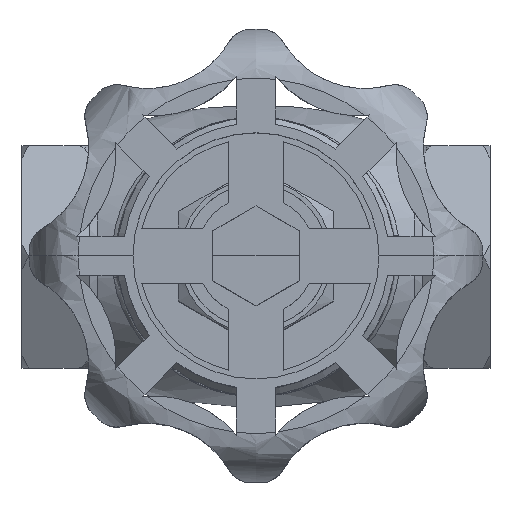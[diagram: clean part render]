
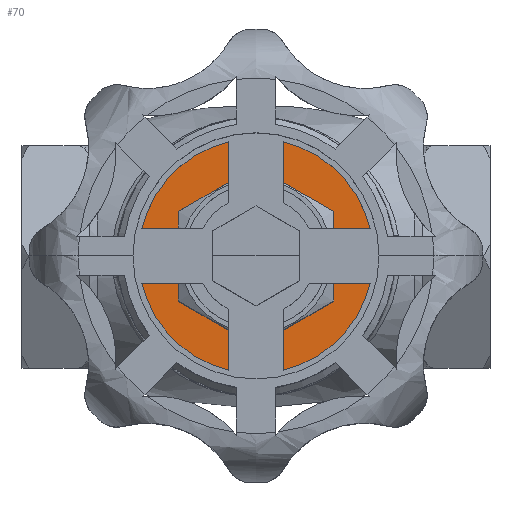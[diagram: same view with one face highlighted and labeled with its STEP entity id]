
A CAD part, top view. The second image highlights one B-rep face of the part: STEP entity #70.
In plain terms, the highlighted planar face has unit normal (0, 0, 1).
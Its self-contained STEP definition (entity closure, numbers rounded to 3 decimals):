
#70=ADVANCED_FACE('',(#584,#585),#583,.T.);
#583=PLANE('',#2847);
#584=FACE_OUTER_BOUND('',#2848,.T.);
#585=FACE_BOUND('',#2849,.T.);
#2844=CARTESIAN_POINT('',(-22.732,-36.344,33.007));
#2845=DIRECTION('',(0.,0.,1.));
#2846=DIRECTION('',(1.,0.,0.));
#2847=AXIS2_PLACEMENT_3D('',#2844,#2845,#2846);
#2848=EDGE_LOOP('',(#5657,#5658));
#2849=EDGE_LOOP('',(#5659,#5660,#5661,#5662,#5663,#5664,#5665,#5666,#5667,#5668,#5669,#5670));
#5657=ORIENTED_EDGE('',*,*,#7016,.F.);
#5658=ORIENTED_EDGE('',*,*,#7017,.F.);
#5659=ORIENTED_EDGE('',*,*,#7002,.T.);
#5660=ORIENTED_EDGE('',*,*,#7018,.T.);
#5661=ORIENTED_EDGE('',*,*,#7008,.T.);
#5662=ORIENTED_EDGE('',*,*,#7019,.T.);
#5663=ORIENTED_EDGE('',*,*,#7020,.T.);
#5664=ORIENTED_EDGE('',*,*,#7021,.T.);
#5665=ORIENTED_EDGE('',*,*,#7022,.T.);
#5666=ORIENTED_EDGE('',*,*,#7023,.T.);
#5667=ORIENTED_EDGE('',*,*,#7024,.T.);
#5668=ORIENTED_EDGE('',*,*,#7025,.T.);
#5669=ORIENTED_EDGE('',*,*,#7012,.T.);
#5670=ORIENTED_EDGE('',*,*,#7026,.T.);
#7002=EDGE_CURVE('',#8446,#8438,#8447,.T.);
#7008=EDGE_CURVE('',#8467,#8481,#8488,.T.);
#7012=EDGE_CURVE('',#8495,#8509,#8516,.T.);
#7016=EDGE_CURVE('',#8542,#8543,#8544,.T.);
#7017=EDGE_CURVE('',#8543,#8542,#8550,.T.);
#7018=EDGE_CURVE('',#8438,#8467,#8556,.T.);
#7019=EDGE_CURVE('',#8481,#8562,#8563,.T.);
#7020=EDGE_CURVE('',#8562,#8569,#8570,.T.);
#7021=EDGE_CURVE('',#8569,#8576,#8577,.T.);
#7022=EDGE_CURVE('',#8576,#8583,#8584,.T.);
#7023=EDGE_CURVE('',#8583,#8590,#8591,.T.);
#7024=EDGE_CURVE('',#8590,#8597,#8598,.T.);
#7025=EDGE_CURVE('',#8597,#8495,#8604,.T.);
#7026=EDGE_CURVE('',#8509,#8446,#8610,.T.);
#8438=VERTEX_POINT('',#12851);
#8446=VERTEX_POINT('',#12856);
#8447=CIRCLE('',#12860,12.424);
#8467=VERTEX_POINT('',#12870);
#8481=VERTEX_POINT('',#12879);
#8488=CIRCLE('',#12886,12.424);
#8495=VERTEX_POINT('',#12888);
#8509=VERTEX_POINT('',#12897);
#8516=CIRCLE('',#12904,12.424);
#8542=VERTEX_POINT('',#12919);
#8543=VERTEX_POINT('',#12920);
#8544=CIRCLE('',#12924,17.486);
#8550=CIRCLE('',#12928,17.486);
#8556=LINE('',#12929,#12930);
#8562=VERTEX_POINT('',#12932);
#8563=LINE('',#12933,#12934);
#8569=VERTEX_POINT('',#12936);
#8570=CIRCLE('',#12940,12.424);
#8576=VERTEX_POINT('',#12941);
#8577=LINE('',#12942,#12943);
#8583=VERTEX_POINT('',#12945);
#8584=CIRCLE('',#12949,12.424);
#8590=VERTEX_POINT('',#12950);
#8591=LINE('',#12951,#12952);
#8597=VERTEX_POINT('',#12954);
#8598=CIRCLE('',#12958,12.424);
#8604=LINE('',#12959,#12960);
#8610=LINE('',#12962,#12963);
#12851=CARTESIAN_POINT('',(0.047,12.424,33.007));
#12856=CARTESIAN_POINT('',(-0.047,12.424,33.007));
#12857=CARTESIAN_POINT('',(0.,0.,33.007));
#12858=DIRECTION('',(0.,0.,-1.));
#12859=DIRECTION('',(1.,0.,0.));
#12860=AXIS2_PLACEMENT_3D('',#12857,#12858,#12859);
#12870=CARTESIAN_POINT('',(10.736,6.253,33.007));
#12879=CARTESIAN_POINT('',(10.783,6.171,33.007));
#12883=CARTESIAN_POINT('',(0.,0.,33.007));
#12884=DIRECTION('',(0.,0.,-1.));
#12885=DIRECTION('',(1.,0.,0.));
#12886=AXIS2_PLACEMENT_3D('',#12883,#12884,#12885);
#12888=CARTESIAN_POINT('',(-10.783,6.171,33.007));
#12897=CARTESIAN_POINT('',(-10.736,6.253,33.007));
#12901=CARTESIAN_POINT('',(0.,0.,33.007));
#12902=DIRECTION('',(0.,0.,-1.));
#12903=DIRECTION('',(1.,0.,0.));
#12904=AXIS2_PLACEMENT_3D('',#12901,#12902,#12903);
#12919=CARTESIAN_POINT('',(17.486,0.,33.007));
#12920=CARTESIAN_POINT('',(-17.486,0.,33.007));
#12921=CARTESIAN_POINT('',(0.,0.,33.007));
#12922=DIRECTION('',(0.,0.,-1.));
#12923=DIRECTION('',(-1.,0.,0.));
#12924=AXIS2_PLACEMENT_3D('',#12921,#12922,#12923);
#12925=CARTESIAN_POINT('',(0.,0.,33.007));
#12926=DIRECTION('',(0.,0.,-1.));
#12927=DIRECTION('',(-1.,0.,0.));
#12928=AXIS2_PLACEMENT_3D('',#12925,#12926,#12927);
#12929=CARTESIAN_POINT('',(0.047,12.424,33.007));
#12930=VECTOR('',#12931,12.342);
#12931=DIRECTION('',(0.866,-0.5,0.));
#12932=CARTESIAN_POINT('',(10.783,-6.171,33.007));
#12933=CARTESIAN_POINT('',(10.783,6.171,33.007));
#12934=VECTOR('',#12935,12.342);
#12935=DIRECTION('',(0.,-1.,0.));
#12936=CARTESIAN_POINT('',(10.736,-6.253,33.007));
#12937=CARTESIAN_POINT('',(0.,0.,33.007));
#12938=DIRECTION('',(0.,0.,-1.));
#12939=DIRECTION('',(1.,0.,0.));
#12940=AXIS2_PLACEMENT_3D('',#12937,#12938,#12939);
#12941=CARTESIAN_POINT('',(0.047,-12.424,33.007));
#12942=CARTESIAN_POINT('',(10.736,-6.253,33.007));
#12943=VECTOR('',#12944,12.342);
#12944=DIRECTION('',(-0.866,-0.5,0.));
#12945=CARTESIAN_POINT('',(-0.047,-12.424,33.007));
#12946=CARTESIAN_POINT('',(0.,0.,33.007));
#12947=DIRECTION('',(0.,0.,-1.));
#12948=DIRECTION('',(1.,0.,0.));
#12949=AXIS2_PLACEMENT_3D('',#12946,#12947,#12948);
#12950=CARTESIAN_POINT('',(-10.736,-6.253,33.007));
#12951=CARTESIAN_POINT('',(-0.047,-12.424,33.007));
#12952=VECTOR('',#12953,12.342);
#12953=DIRECTION('',(-0.866,0.5,0.));
#12954=CARTESIAN_POINT('',(-10.783,-6.171,33.007));
#12955=CARTESIAN_POINT('',(0.,0.,33.007));
#12956=DIRECTION('',(0.,0.,-1.));
#12957=DIRECTION('',(1.,0.,0.));
#12958=AXIS2_PLACEMENT_3D('',#12955,#12956,#12957);
#12959=CARTESIAN_POINT('',(-10.783,-6.171,33.007));
#12960=VECTOR('',#12961,12.342);
#12961=DIRECTION('',(0.,1.,0.));
#12962=CARTESIAN_POINT('',(-10.736,6.253,33.007));
#12963=VECTOR('',#12964,12.342);
#12964=DIRECTION('',(0.866,0.5,0.));
